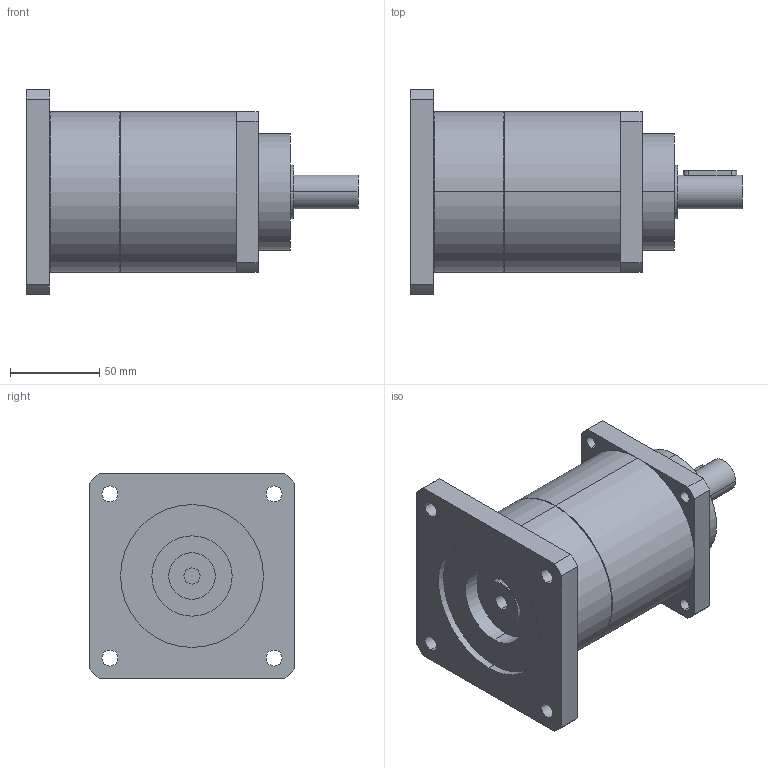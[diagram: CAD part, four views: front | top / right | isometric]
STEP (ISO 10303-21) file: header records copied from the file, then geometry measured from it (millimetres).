
FILE_DESCRIPTION(('CoCreate Modeling STEP Export'),'2;1');
FILE_NAME('GPT90_ig-9-12-16-20-25-28-35-40-50-70-100_19_B5T_9_P30.stp','2015-02-04T11:34:00',(''),(''),'CoCreate Modeling STEP processor for AP214 (Solid Model)','CoCreate Modeling 16.00C 25-Feb-2009 (C) Parametric Technology GmbH','');
FILE_SCHEMA(('AUTOMOTIVE_DESIGN { 1 0 10303 214 1 1 1 1 }'));
Length unit declared in the file: millimetre
Products named in the file (2): GPT90_ig-9-12-16-20-25-28-35-40-50-70-100_19_B5T_9_P30
Assembly tree (1 placements, depth 2):
  GPT90_ig-9-12-16-20-25-28-35-40-50-70-100_19_B5T_9_P30
    GPT90_ig-9-12-16-20-25-28-35-40-50-70-100_19_B5T_9_P30
Bounding box: 186 x 115 x 115 mm (x, y, z)
Volume: 966761.5 mm3; surface area: 81494.2 mm2
Topology: 1 solids, 1 shells, 77 faces, 206 edges, 141 vertices
Faces by surface type: cylinder 46, plane 27, cone 4
Entity records: 2596 total; most frequent: CARTESIAN_POINT 742, ORIENTED_EDGE 412, DIRECTION 324, EDGE_CURVE 206, VERTEX_POINT 141, AXIS2_PLACEMENT_3D 120, EDGE_LOOP 103, VECTOR 84
